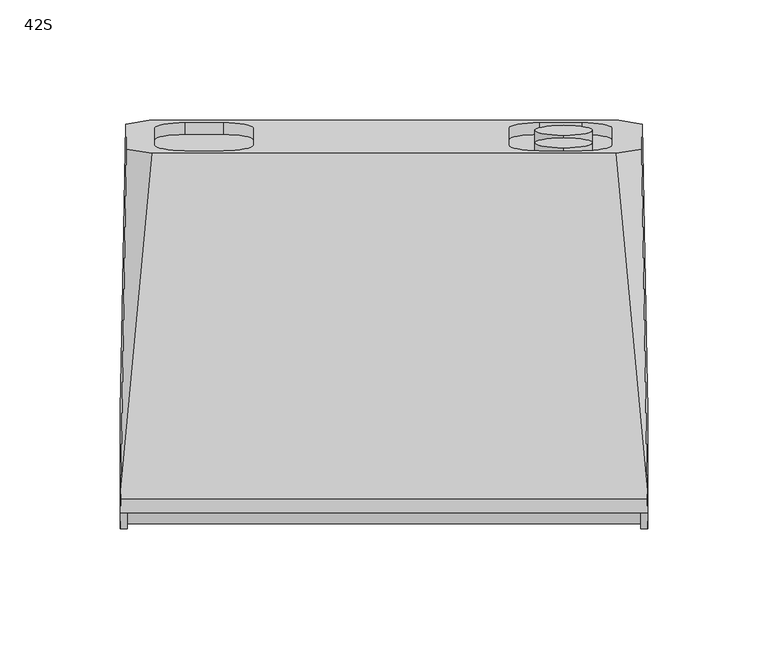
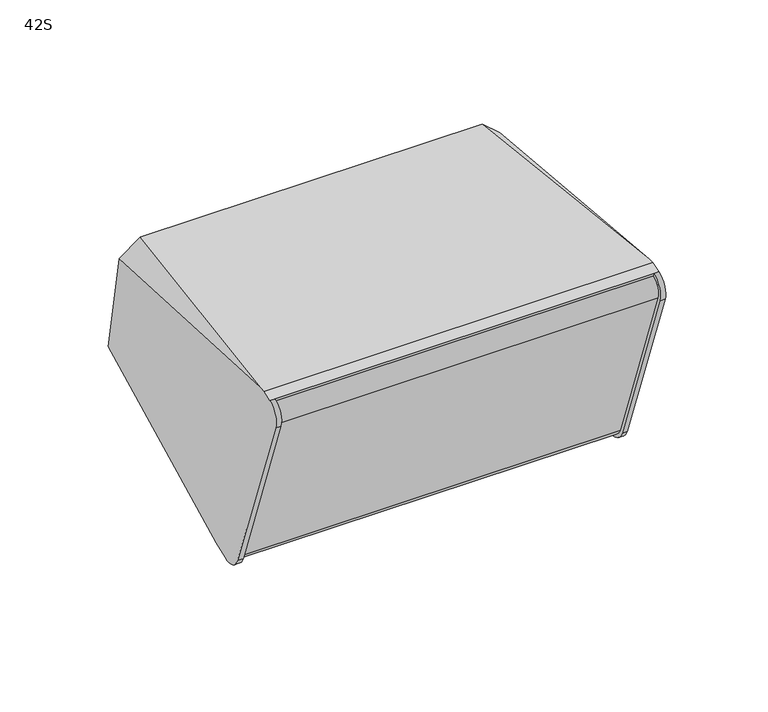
"""IFC4 building model written with IfcOpenShell, lengths in millimetres: proxy geometry, d&b xS-Series 42S Point Source : 42S."""

from ifc_helpers import new_model, si_unit, point, frame, frame_2d, origin, place, context, project, spatial, polyline, circle_curve, ellipse_curve, trimmed, segment, composite_curve, outline, extrude, source, transform, mapped, element, save
from ifc_brep_helpers import plane_surface, cylinder_surface, revolved_surface, advanced_brep


def proxy_42s_c75082dc(model_context):
    return source(origin(), model_context, "Body", "SolidModel", [
        advanced_brep(
        [(-107.0, -40.1304238, -82.7136572), (107.0, -40.1304238, -82.7136572), (107.0, -40.7995779, -80.8751713), (-107.0, -40.7995779, -80.8751713), (107.0, -51.0085421, -76.1146532), (-107.0, -51.0085421, -76.1146532), (107.0, -87.9735419, 25.4458491), (-107.0, -87.9735419, 25.4458491), (107.0, -83.1921621, 35.6995512), (-107.0, -83.1921621, 35.6995512), (107.0, -83.8762023, 37.5789364), (-107.0, -83.8762023, 37.5789364), (109.8273531, -83.8762023, 37.5789364), (109.7253263, -78.3036462, 39.607181), (-109.7253263, -78.3036462, 39.607181), (-109.8273531, -83.8762023, 37.5789364), (-109.8279536, -40.1304238, -82.7136572), (-109.6679034, -31.3887128, -79.5319346), (-97.8946622, 79.7990071, -39.0629141), (97.8946622, 79.7990071, -39.0629141), (109.6679034, -31.3887128, -79.5319346), (109.8279536, -40.1304238, -82.7136572), (96.5142171, 65.9252495, 39.6190753), (-96.5142171, 65.9252495, 39.6190753), (-109.6679034, -74.7519113, 39.6074739), (109.6679034, -74.7519113, 39.6074739), (-107.602215, 78.0567362, -29.1820046), (107.602215, 78.0567362, -29.1820046), (107.4240938, 67.7036493, 29.5332686), (-107.4240938, 67.7036493, 29.5332686), (-109.9986507, -52.8470279, -76.7838073), (-109.9993995, -89.8529271, 24.7618088), (109.9993995, -89.8529271, 24.7618088), (109.9993995, -52.8879273, -76.7986935), (-107.0, -89.8529271, 24.7618088), (-107.0, -52.8879273, -76.7986935), (-95.447753, 76.4794532, -20.2367887), (-82.947753, 78.6500555, -32.5468856), (-67.052247, 78.6500555, -32.5468856), (-54.552247, 76.4794532, -20.2367887), (-54.552247, 69.2582078, 20.7169296), (-67.052247, 67.0876055, 33.0270265), (-82.947753, 67.0876055, 33.0270265), (-95.447753, 69.2582078, 20.7169296), (52.1, 76.4794532, -20.2367887), (64.6, 78.6500555, -32.5468856), (82.4, 78.6500555, -32.5468856), (94.9, 76.4794532, -20.2367887), (94.9, 69.2582078, 20.7169296), (82.4, 67.0876055, 33.0270265), (64.6, 67.0876055, 33.0270265), (52.1, 69.2582078, 20.7169296), (-95.447753, 71.5554145, -21.1050296), (-95.447753, 64.334169, 19.8486887), (-82.947753, 62.1635668, 32.1587856), (-67.052247, 62.1635668, 32.1587856), (-54.552247, 64.334169, 19.8486887), (-54.552247, 71.5554145, -21.1050296), (-67.052247, 73.7260167, -33.4151265), (-82.947753, 73.7260167, -33.4151265), (52.1, 71.5554145, -21.1050296), (52.1, 64.334169, 19.8486887), (64.6, 62.1635668, 32.1587856), (82.4, 62.1635668, 32.1587856), (94.9, 64.334169, 19.8486887), (94.9, 71.5554145, -21.1050296), (82.4, 73.7260167, -33.4151265), (64.6, 73.7260167, -33.4151265), (107.0, -52.8470279, -76.7838073), (107.0, -89.8529271, 24.7618088)],
        [
            (0, 1),
            (1, 2),
            (2, 3),
            (3, 0),
            (2, 4, circle_curve(frame((107.0, -43.5238009, -73.3904302), z_axis=(-1.0, 0.0, 0.0), x_axis=(0.0, 0.34202014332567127, -0.9396926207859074)), 7.9650952)),
            (4, 5),
            (5, 3, circle_curve(frame((-107.0, -43.5238009, -73.3904302), z_axis=(1.0, 0.0, 0.0), x_axis=(0.0, 0.34202014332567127, -0.9396926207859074)), 7.9650952)),
            (4, 6),
            (6, 7),
            (7, 5),
            (6, 8, circle_curve(frame((107.0, -80.4560009, 28.1820102), z_axis=(-1.0, 0.0, 0.0), x_axis=(0.0, 0.34202014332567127, -0.9396926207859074)), 8.0)),
            (8, 9),
            (9, 7, circle_curve(frame((-107.0, -80.4560009, 28.1820102), z_axis=(1.0, 0.0, 0.0), x_axis=(0.0, 0.34202014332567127, -0.9396926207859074)), 8.0)),
            (8, 10),
            (10, 11),
            (11, 9),
            (10, 12),
            (12, 13),
            (13, 14),
            (14, 15),
            (15, 11),
            (0, 16),
            (16, 17),
            (17, 18),
            (18, 19),
            (19, 20),
            (20, 21),
            (21, 1),
            (22, 23),
            (23, 24),
            (24, 14),
            (13, 25),
            (25, 22),
            (26, 18),
            (17, 26),
            (19, 27),
            (27, 20),
            (28, 22),
            (25, 28),
            (23, 29),
            (29, 24),
            (29, 26),
            (16, 30, ellipse_curve(frame((-109.8279536, -43.5238009, -73.3904302), z_axis=(-0.999852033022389, 0.016164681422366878, 0.005883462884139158), x_axis=(-0.017202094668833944, -0.9395535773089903, -0.34196953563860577)), 9.9230392, 9.921571)),
            (30, 31),
            (31, 15, ellipse_curve(frame((-109.8273531, -80.4560009, 28.1820102), z_axis=(-0.999852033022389, 0.016164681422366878, 0.005883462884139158), x_axis=(-0.017202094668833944, -0.9395535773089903, -0.34196953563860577)), 10.0014799, 10.0)),
            (12, 32, ellipse_curve(frame((109.8273531, -80.4560009, 28.1820102), z_axis=(0.9998520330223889, 0.016164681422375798, 0.005883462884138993), x_axis=(-0.01720209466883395, 0.9395535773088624, 0.3419695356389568)), 10.0014799, 10.0)),
            (32, 33),
            (33, 21, ellipse_curve(frame((109.8279536, -43.5238009, -73.3904302), z_axis=(0.9998520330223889, 0.016164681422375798, 0.005883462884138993), x_axis=(-0.01720209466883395, 0.9395535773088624, 0.3419695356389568)), 9.9230392, 9.921571)),
            (27, 28),
            (11, 34, circle_curve(frame((-107.0, -80.4560009, 28.1820102), z_axis=(1.0, 0.0, 0.0), x_axis=(0.0, 0.34202014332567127, -0.9396926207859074)), 10.0)),
            (34, 35),
            (35, 0, circle_curve(frame((-107.0, -43.5238009, -73.3904302), z_axis=(1.0, 0.0, 0.0), x_axis=(0.0, 0.34202014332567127, -0.9396926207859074)), 9.921571)),
            (35, 30),
            (34, 31),
            (36, 37, circle_curve(frame((-82.947753, 76.4794532, -20.2367887), z_axis=(0.0, -0.9848077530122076, -0.1736481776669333), x_axis=(0.0, -0.1736481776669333, 0.9848077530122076)), 12.5)),
            (37, 38),
            (38, 39, circle_curve(frame((-67.052247, 76.4794532, -20.2367887), z_axis=(0.0, -0.9848077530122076, -0.1736481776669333), x_axis=(0.0, -0.1736481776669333, 0.9848077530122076)), 12.5)),
            (39, 40),
            (40, 41, circle_curve(frame((-67.052247, 69.2582078, 20.7169296), z_axis=(0.0, -0.9848077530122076, -0.1736481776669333), x_axis=(0.0, -0.1736481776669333, 0.9848077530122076)), 12.5)),
            (41, 42),
            (42, 43, circle_curve(frame((-82.947753, 69.2582078, 20.7169296), z_axis=(0.0, -0.9848077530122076, -0.1736481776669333), x_axis=(0.0, -0.1736481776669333, 0.9848077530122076)), 12.5)),
            (43, 36),
            (44, 45, circle_curve(frame((64.6, 76.4794532, -20.2367887), z_axis=(0.0, -0.9848077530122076, -0.1736481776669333), x_axis=(0.0, -0.1736481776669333, 0.9848077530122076)), 12.5)),
            (45, 46),
            (46, 47, circle_curve(frame((82.4, 76.4794532, -20.2367887), z_axis=(0.0, -0.9848077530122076, -0.1736481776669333), x_axis=(0.0, -0.1736481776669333, 0.9848077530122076)), 12.5)),
            (47, 48),
            (48, 49, circle_curve(frame((82.4, 69.2582078, 20.7169296), z_axis=(0.0, -0.9848077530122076, -0.1736481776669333), x_axis=(0.0, -0.1736481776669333, 0.9848077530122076)), 12.5)),
            (49, 50),
            (50, 51, circle_curve(frame((64.6, 69.2582078, 20.7169296), z_axis=(0.0, -0.9848077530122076, -0.1736481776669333), x_axis=(0.0, -0.1736481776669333, 0.9848077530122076)), 12.5)),
            (51, 44),
            (52, 53),
            (53, 54, circle_curve(frame((-82.947753, 64.334169, 19.8486887), z_axis=(0.0, 0.9848077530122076, 0.1736481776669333), x_axis=(0.0, -0.1736481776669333, 0.9848077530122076)), 12.5)),
            (54, 55),
            (55, 56, circle_curve(frame((-67.052247, 64.334169, 19.8486887), z_axis=(0.0, 0.9848077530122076, 0.1736481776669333), x_axis=(0.0, -0.1736481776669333, 0.9848077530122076)), 12.5)),
            (56, 57),
            (57, 58, circle_curve(frame((-67.052247, 71.5554145, -21.1050296), z_axis=(0.0, 0.9848077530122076, 0.1736481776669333), x_axis=(0.0, -0.1736481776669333, 0.9848077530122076)), 12.5)),
            (58, 59),
            (59, 52, circle_curve(frame((-82.947753, 71.5554145, -21.1050296), z_axis=(0.0, 0.9848077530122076, 0.1736481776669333), x_axis=(0.0, -0.1736481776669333, 0.9848077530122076)), 12.5)),
            (60, 61),
            (61, 62, circle_curve(frame((64.6, 64.334169, 19.8486887), z_axis=(0.0, 0.9848077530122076, 0.1736481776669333), x_axis=(0.0, -0.1736481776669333, 0.9848077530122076)), 12.5)),
            (62, 63),
            (63, 64, circle_curve(frame((82.4, 64.334169, 19.8486887), z_axis=(0.0, 0.9848077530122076, 0.1736481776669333), x_axis=(0.0, -0.1736481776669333, 0.9848077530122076)), 12.5)),
            (64, 65),
            (65, 66, circle_curve(frame((82.4, 71.5554145, -21.1050296), z_axis=(0.0, 0.9848077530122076, 0.1736481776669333), x_axis=(0.0, -0.1736481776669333, 0.9848077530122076)), 12.5)),
            (66, 67),
            (67, 60, circle_curve(frame((64.6, 71.5554145, -21.1050296), z_axis=(0.0, 0.9848077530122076, 0.1736481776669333), x_axis=(0.0, -0.1736481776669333, 0.9848077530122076)), 12.5)),
            (1, 68, circle_curve(frame((107.0, -43.5238009, -73.3904302), z_axis=(-1.0, 0.0, 0.0), x_axis=(0.0, 0.34202014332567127, -0.9396926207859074)), 9.921571)),
            (68, 69),
            (69, 10, circle_curve(frame((107.0, -80.4560009, 28.1820102), z_axis=(-1.0, 0.0, 0.0), x_axis=(0.0, 0.34202014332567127, -0.9396926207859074)), 10.0)),
            (33, 68),
            (32, 69),
            (59, 37),
            (36, 52),
            (58, 38),
            (57, 39),
            (56, 40),
            (55, 41),
            (54, 42),
            (53, 43),
            (67, 45),
            (44, 60),
            (66, 46),
            (65, 47),
            (64, 48),
            (63, 49),
            (62, 50),
            (61, 51),
        ],
        [
            plane_surface(frame((-107.0, -40.1304238, -82.7136572), z_axis=(0.0, -0.9396926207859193, -0.3420201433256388), x_axis=(1.0, 0.0, 0.0))),
            cylinder_surface(frame((107.0, -43.5238009, -73.3904302), z_axis=(-1.0, 0.0, 0.0), x_axis=(0.0, 0.34202014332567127, -0.9396926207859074)), 7.9650952),
            plane_surface(frame((-107.0, -51.0085421, -76.1146532), z_axis=(0.0, -0.9396926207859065, -0.34202014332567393), x_axis=(1.0, 0.0, 0.0))),
            cylinder_surface(frame((107.0, -80.4560009, 28.1820102), z_axis=(-1.0, 0.0, 0.0), x_axis=(0.0, 0.34202014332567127, -0.9396926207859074)), 8.0),
            plane_surface(frame((-107.0, -83.1921621, 35.6995512), z_axis=(0.0, -0.9396926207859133, -0.34202014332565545), x_axis=(1.0, 0.0, 0.0))),
            plane_surface(frame((-107.0, -83.8762023, 37.5789364), z_axis=(0.0, -0.3420201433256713, 0.9396926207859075), x_axis=(1.0, 0.0, 0.0))),
            plane_surface(frame((-107.0, -34.5250679, -80.6734745), z_axis=(0.0, 0.3420201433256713, -0.9396926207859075), x_axis=(1.0, 0.0, 0.0))),
            plane_surface(frame((0.0, 66.4573306, 39.6191191), z_axis=(0.0, -8.246800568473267e-05, 0.9999999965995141), x_axis=(-1.0, 0.0, 0.0))),
            plane_surface(frame((-103.232233, 90.9912157, -27.7871762), z_axis=(-0.7053631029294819, 0.3071997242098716, -0.6388201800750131), x_axis=(0.7071067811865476, 0.24184476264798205, -0.6644630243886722))),
            plane_surface(frame((103.232233, 90.9912157, -27.7871762), z_axis=(0.7053631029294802, 0.30719972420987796, -0.638820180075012), x_axis=(0.7071067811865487, -0.2418447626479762, 0.6644630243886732))),
            plane_surface(frame((103.232233, 68.7720433, 33.2594985), z_axis=(0.6719558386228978, 0.06276879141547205, 0.7379264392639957), x_axis=(-0.7071067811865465, -0.24184476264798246, 0.6644630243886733))),
            plane_surface(frame((-103.232233, 68.7720433, 33.2594985), z_axis=(-0.6719558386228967, 0.06276879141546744, 0.737926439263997), x_axis=(-0.7071067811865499, 0.24184476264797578, -0.6644630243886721))),
            plane_surface(frame((-110.3665166, -125.6372625, 60.6895534), z_axis=(-0.999852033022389, 0.016164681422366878, 0.005883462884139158), x_axis=(0.0, 0.3420201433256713, -0.9396926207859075))),
            plane_surface(frame((107.2474477, 44.7217815, 122.6951745), z_axis=(0.9998520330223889, 0.016164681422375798, 0.005883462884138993), x_axis=(0.0, 0.3420201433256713, -0.9396926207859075))),
            plane_surface(frame((-107.0, -40.1304238, -82.7136572), z_axis=(1.0000000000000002, 0.0, 0.0), x_axis=(0.0, 0.9396926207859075, 0.3420201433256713))),
            cylinder_surface(frame((-107.0, -43.5238009, -73.3904302), z_axis=(-1.0, 0.0, 0.0), x_axis=(0.0, 0.34202014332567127, -0.9396926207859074)), 9.921571),
            plane_surface(frame((-112.6426388, -52.8879273, -76.7986935), z_axis=(0.0, -0.9396926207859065, -0.34202014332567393), x_axis=(1.0, 0.0, 0.0))),
            cylinder_surface(frame((-107.0, -80.4560009, 28.1820102), z_axis=(-1.0, 0.0, 0.0), x_axis=(0.0, 0.34202014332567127, -0.9396926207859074)), 10.0),
            plane_surface(frame((-250.0, 82.8421534, -56.3214544), z_axis=(0.0, 0.9848077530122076, 0.17364817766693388), x_axis=(1.0, 0.0, 0.0))),
            plane_surface(frame((-82.947753, 69.3848123, -8.7949326), z_axis=(0.0, 0.9848077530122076, 0.1736481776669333), x_axis=(-1.0, 0.0, 0.0))),
            plane_surface(frame((107.0, -40.1304238, -82.7136572), z_axis=(-1.0000000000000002, 0.0, 0.0), x_axis=(0.0, -0.9396926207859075, -0.3420201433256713))),
            cylinder_surface(frame((113.0, -43.5238009, -73.3904302), z_axis=(-1.0, 0.0, 0.0), x_axis=(0.0, 0.34202014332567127, -0.9396926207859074)), 9.921571),
            plane_surface(frame((107.0, -52.8879273, -76.7986935), z_axis=(0.0, -0.9396926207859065, -0.34202014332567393), x_axis=(1.0, 0.0, 0.0))),
            cylinder_surface(frame((113.0, -80.4560009, 28.1820102), z_axis=(-1.0, 0.0, 0.0), x_axis=(0.0, 0.34202014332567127, -0.9396926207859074)), 10.0),
            revolved_surface(polyline([(-82.947753, 69.38481225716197, -8.794932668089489), (-82.947753, 74.30885105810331, -7.926691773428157)]), (-82.947753, 76.4794532, -20.2367887), (0.0, -0.9848077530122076, -0.1736481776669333)),
            plane_surface(frame((-82.947753, 73.7260167, -33.4151265), z_axis=(0.0, -0.1736481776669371, 0.9848077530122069), x_axis=(0.0, 0.9848077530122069, 0.1736481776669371))),
            revolved_surface(polyline([(-67.052247, 69.38481225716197, -8.794932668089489), (-67.052247, 74.30885105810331, -7.926691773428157)]), (-67.052247, 76.4794532, -20.2367887), (0.0, -0.9848077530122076, -0.1736481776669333)),
            plane_surface(frame((-54.552247, 71.5554145, -21.1050296), z_axis=(-1.0, 0.0, 0.0), x_axis=(0.0, 0.9848077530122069, 0.1736481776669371))),
            revolved_surface(polyline([(-67.052247, 62.163566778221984, 32.15878561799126), (-67.052247, 67.08760557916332, 33.0270265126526)]), (-67.052247, 69.2582078, 20.7169296), (0.0, -0.9848077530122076, -0.1736481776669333)),
            plane_surface(frame((-67.052247, 62.1635668, 32.1587856), z_axis=(0.0, 0.17364817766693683, -0.984807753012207), x_axis=(0.0, 0.984807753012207, 0.17364817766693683))),
            revolved_surface(polyline([(-82.947753, 62.163566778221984, 32.15878561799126), (-82.947753, 67.08760557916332, 33.0270265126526)]), (-82.947753, 69.2582078, 20.7169296), (0.0, -0.9848077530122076, -0.1736481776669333)),
            plane_surface(frame((-95.447753, 64.334169, 19.8486887), z_axis=(1.0, 0.0, 0.0), x_axis=(0.0, 0.9848077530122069, 0.1736481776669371))),
            revolved_surface(polyline([(64.6, 69.38481225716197, -8.794932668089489), (64.6, 74.30885105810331, -7.926691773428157)]), (64.6, 76.4794532, -20.2367887), (0.0, -0.9848077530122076, -0.1736481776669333)),
            plane_surface(frame((64.6, 73.7260167, -33.4151265), z_axis=(0.0, -0.1736481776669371, 0.9848077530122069), x_axis=(0.0, 0.9848077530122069, 0.1736481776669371))),
            revolved_surface(polyline([(82.4, 69.38481225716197, -8.794932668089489), (82.4, 74.30885105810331, -7.926691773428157)]), (82.4, 76.4794532, -20.2367887), (0.0, -0.9848077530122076, -0.1736481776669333)),
            plane_surface(frame((94.9, 71.5554145, -21.1050296), z_axis=(-1.0, 0.0, 0.0), x_axis=(0.0, 0.9848077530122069, 0.1736481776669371))),
            revolved_surface(polyline([(82.4, 62.163566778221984, 32.15878561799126), (82.4, 67.08760557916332, 33.0270265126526)]), (82.4, 69.2582078, 20.7169296), (0.0, -0.9848077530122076, -0.1736481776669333)),
            plane_surface(frame((82.4, 62.1635668, 32.1587856), z_axis=(0.0, 0.1736481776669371, -0.9848077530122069), x_axis=(0.0, 0.9848077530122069, 0.1736481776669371))),
            revolved_surface(polyline([(64.6, 62.163566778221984, 32.15878561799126), (64.6, 67.08760557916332, 33.0270265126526)]), (64.6, 69.2582078, 20.7169296), (0.0, -0.9848077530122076, -0.1736481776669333)),
            plane_surface(frame((52.1, 64.334169, 19.8486887), z_axis=(1.0, 0.0, 0.0), x_axis=(0.0, 0.9848077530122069, 0.1736481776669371))),
        ],
        [
            (0, [[1, 2, 3, 4]]),
            (1, [[-3, 5, 6, 7]]),
            (2, [[-6, 8, 9, 10]]),
            (3, [[-9, 11, 12, 13]]),
            (4, [[-12, 14, 15, 16]]),
            (5, [[-15, 17, 18, 19, 20, 21]]),
            (6, [[-1, 22, 23, 24, 25, 26, 27, 28]]),
            (7, [[29, 30, 31, -19, 32, 33]]),
            (8, [[34, -24, 35]]),
            (9, [[-26, 36, 37]]),
            (10, [[38, -33, 39]]),
            (11, [[-30, 40, 41]]),
            (12, [[-20, -31, -41, 42, -35, -23, 43, 44, 45]]),
            (13, [[-18, 46, 47, 48, -27, -37, 49, -39, -32]]),
            (14, [[50, 51, 52, -4, -7, -10, -13, -16]]),
            (15, [[-52, 53, -43, -22]]),
            (16, [[-51, 54, -44, -53]]),
            (17, [[-50, -21, -45, -54]]),
            (18, [[-25, -34, -42, -40, -29, -38, -49, -36], [55, 56, 57, 58, 59, 60, 61, 62], [63, 64, 65, 66, 67, 68, 69, 70]]),
            (19, [[71, 72, 73, 74, 75, 76, 77, 78]]),
            (19, [[79, 80, 81, 82, 83, 84, 85, 86]]),
            (20, [[87, 88, 89, -14, -11, -8, -5, -2]]),
            (21, [[-87, -28, -48, 90]]),
            (22, [[-88, -90, -47, 91]]),
            (23, [[-89, -91, -46, -17]]),
            (24, [[-78, 92, -55, 93]]),
            (25, [[-77, 94, -56, -92]]),
            (26, [[-76, 95, -57, -94]]),
            (27, [[-75, 96, -58, -95]]),
            (28, [[-74, 97, -59, -96]]),
            (29, [[-73, 98, -60, -97]]),
            (30, [[-72, 99, -61, -98]]),
            (31, [[-71, -93, -62, -99]]),
            (32, [[-86, 100, -63, 101]]),
            (33, [[-85, 102, -64, -100]]),
            (34, [[-84, 103, -65, -102]]),
            (35, [[-83, 104, -66, -103]]),
            (36, [[-82, 105, -67, -104]]),
            (37, [[-81, 106, -68, -105]]),
            (38, [[-80, 107, -69, -106]]),
            (39, [[-79, -101, -70, -107]]),
        ],
    ),
        extrude(outline(composite_curve([segment(trimmed(circle_curve(frame_2d((0.0, -12.0)), 12.0), [point((0.0, -24.0))], [point((0.0, 0.0))], False, "CARTESIAN"), True, "CONTINUOUS"), segment(trimmed(circle_curve(frame_2d((0.0, -12.0)), 12.0), [point((0.0, 0.0))], [point((0.0, -24.0))], False, "CARTESIAN"), True, "CONTINUOUS")], self_intersect=False)), frame((74.8471384, 72.6261724, -27.1775994), z_axis=(0.0, 0.9848077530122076, 0.17364817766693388), x_axis=(1.0, 0.0, 0.0)), (0.0, 0.0, 1.0), 5.0),
        extrude(outline(composite_curve([segment(trimmed(circle_curve(frame_2d((0.0, -42.0)), 12.0), [point((0.0, -54.0))], [point((0.0, -30.0))], False, "CARTESIAN"), True, "CONTINUOUS"), segment(trimmed(circle_curve(frame_2d((0.0, -42.0)), 12.0), [point((0.0, -30.0))], [point((0.0, -54.0))], False, "CARTESIAN"), True, "CONTINUOUS")], self_intersect=False)), frame((74.8471384, 72.6261724, -27.1775994), z_axis=(0.0, 0.9848077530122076, 0.17364817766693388), x_axis=(1.0, 0.0, 0.0)), (0.0, 0.0, 1.0), 5.0),
    ])


if __name__ == "__main__":
    model = new_model("IFC4")
    model_context = context("Model", 3, world=origin())
    ifc_project = project(units=[si_unit("LENGTHUNIT", "METRE", prefix="MILLI")], contexts=[model_context])
    site = spatial("IfcSite", under=ifc_project)
    building = spatial("IfcBuilding", under=site)
    placement = place(None, origin())
    proxy_42s_shape = proxy_42s_c75082dc(model_context)
    element("IfcBuildingElementProxy", 1, Name="d&b xS-Series 42S Point Source : 42S", ObjectType="d&b xS-Series 42S Point Source : 42S", at=placement, inside=building, context=model_context, shape_type="MappedRepresentation", body=[
        mapped(proxy_42s_shape, transform((0.0, 0.0, 0.0), x_axis=(1.0, 0.0, 0.0), y_axis=(0.0, 1.0, 0.0), z_axis=(0.0, 0.0, 1.0))),
    ])
    save(model, "model.ifc")
